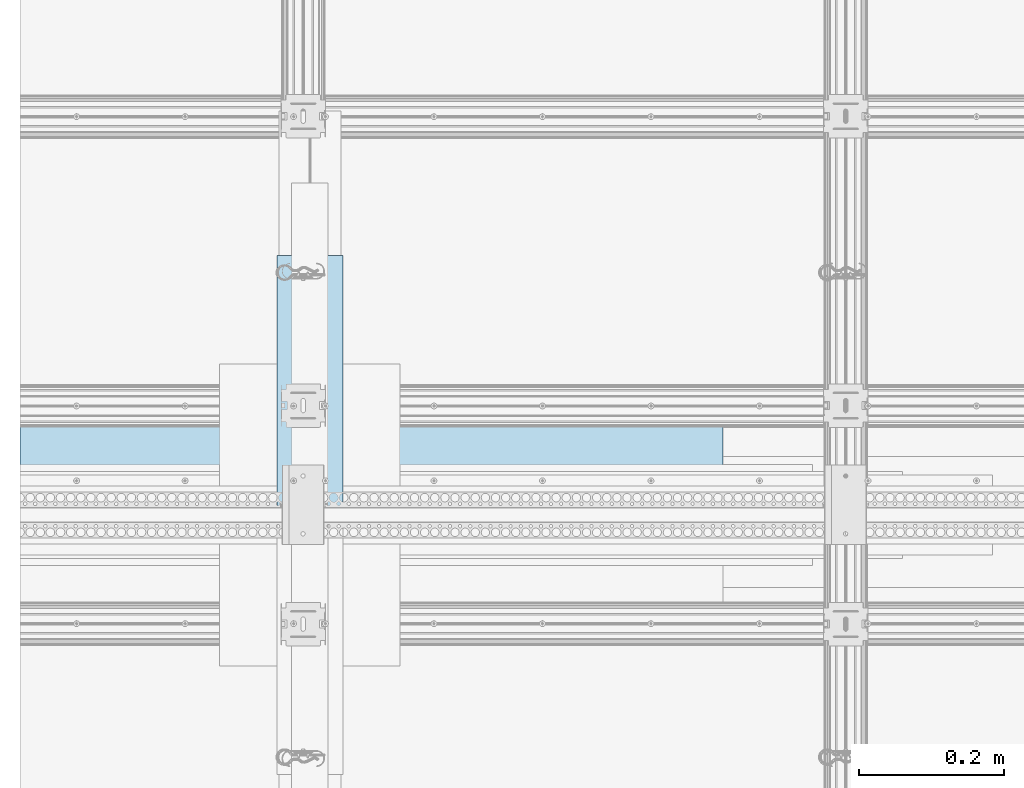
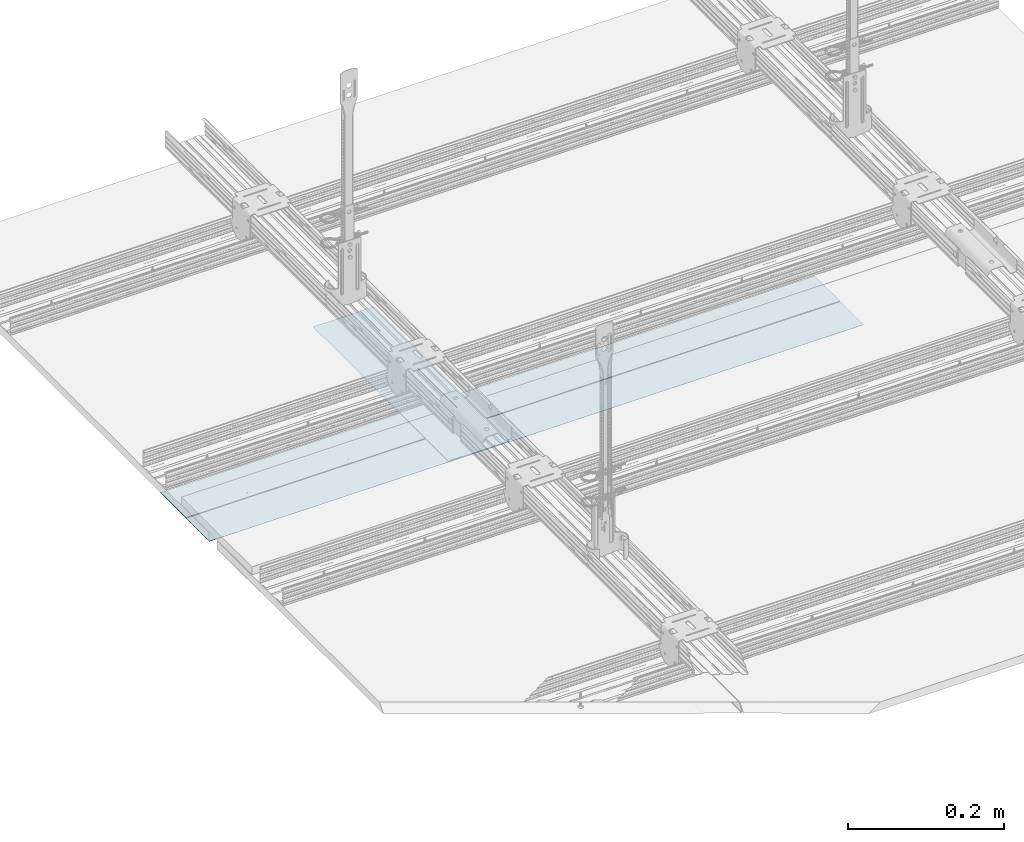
# One storey, part 5 of 56: 2 slabs.
"""IFC2X3 building model written with IfcOpenShell, lengths in millimetres."""

import ifcopenshell
import ifcopenshell.guid

model = None  # the IFC model being written
_history = None  # IfcOwnerHistory: only IFC2X3 demands one
_inside = {}  # id of a spatial element -> (the spatial element, [elements in it])
_under = {}  # id of a project, library or spatial element -> (it, [spatial elements below it])
_declared = {}  # id of a project -> (the project, [libraries it declares])
_typed = {}  # id of a type object -> (the type object, [elements of that type])
_made_of = {}  # id of a material, layer set ... -> (it, [elements and type objects made of it])


def new_model(schema):
    """Start an empty IFC model of exactly this schema.

    Asked for "IFC4X3", IfcOpenShell would pick the latest addendum, in which some entities
    have other attributes; the version numbers below select the first issue.
    IFC2X3 requires an IfcOwnerHistory on every rooted entity: one is made here for all.
    """
    global model, _history
    if schema == "IFC4X3":
        model = ifcopenshell.file(schema_version=(4, 3, 0, 0))
    else:
        model = ifcopenshell.file(schema=schema)
    _inside.clear()
    _under.clear()
    _declared.clear()
    _typed.clear()
    _made_of.clear()
    _history = None
    if model.schema == "IFC2X3":
        org = make("IfcOrganization", Name="unknown")
        user = make(
            "IfcPersonAndOrganization",
            ThePerson=make("IfcPerson", FamilyName="unknown"),
            TheOrganization=org,
        )
        app = make(
            "IfcApplication",
            ApplicationDeveloper=org,
            Version="unknown",
            ApplicationFullName="unknown",
            ApplicationIdentifier="unknown",
        )
        _history = make(
            "IfcOwnerHistory",
            OwningUser=user,
            OwningApplication=app,
            ChangeAction="ADDED",
            CreationDate=0,
        )
    return model


def make(cls, **values):
    """One entity of the class cls with the attributes given. An attribute that is None is left unset."""
    return model.create_entity(
        cls, **{name: value for name, value in values.items() if value is not None}
    )


def entity(cls, *values):
    """Any entity or typed value of the class cls, its attributes in the order of the schema. None: left unset."""
    e = model.create_entity(cls)
    for i, value in enumerate(values):
        if value is not None:
            e[i] = value
    return e


def rooted(cls, **values):
    """An entity with a GlobalId (a new one), such as an element, a storey or a relation."""
    return make(cls, GlobalId=ifcopenshell.guid.new(), OwnerHistory=_history, **values)


def si_unit(unit_type, name, prefix=None):
    """IfcSIUnit, for example si_unit("LENGTHUNIT", "METRE", prefix="MILLI")."""
    return make("IfcSIUnit", UnitType=unit_type, Prefix=prefix, Name=name)


def converted_unit(unit_type, name, factor, base, dimensions=None, offset=None):
    """IfcConversionBasedUnit, such as the inch: factor (a typed value) times the base unit."""
    return make(
        "IfcConversionBasedUnit"
        if offset is None
        else "IfcConversionBasedUnitWithOffset",
        ConversionOffset=offset,
        Dimensions=None
        if dimensions is None
        else entity("IfcDimensionalExponents", *dimensions),
        UnitType=unit_type,
        Name=name,
        ConversionFactor=make(
            "IfcMeasureWithUnit", ValueComponent=factor, UnitComponent=base
        ),
    )


def assignment(units):
    """IfcUnitAssignment: the units of a project."""
    return None if units is None else make("IfcUnitAssignment", Units=units)


def point(xyz):
    """IfcCartesianPoint."""
    return None if xyz is None else make("IfcCartesianPoint", Coordinates=xyz)


def direction(xyz):
    """IfcDirection."""
    return None if xyz is None else make("IfcDirection", DirectionRatios=xyz)


def frame(location, z_axis=None, x_axis=None):
    """IfcAxis2Placement3D, a coordinate frame: its origin and axes. An axis left out is left unset."""
    return make(
        "IfcAxis2Placement3D",
        Location=point(location),
        Axis=direction(z_axis),
        RefDirection=direction(x_axis),
    )


def origin():
    """The frame at (0, 0, 0) with its axes left unset."""
    return frame((0.0, 0.0, 0.0))


def origin_with_axes():
    """The frame at (0, 0, 0) with the z axis (0, 0, 1) and the x axis (1, 0, 0) written out."""
    return frame((0.0, 0.0, 0.0), z_axis=(0.0, 0.0, 1.0), x_axis=(1.0, 0.0, 0.0))


def place(relative_to, where):
    """IfcLocalPlacement: puts the frame where relative to a parent placement (None: the world)."""
    return make(
        "IfcLocalPlacement", PlacementRelTo=relative_to, RelativePlacement=where
    )


def context(
    kind, dimensions, precision=None, world=None, true_north=None, identifier=None
):
    """IfcGeometricRepresentationContext, for example the 3D "Model" context."""
    return make(
        "IfcGeometricRepresentationContext",
        ContextIdentifier=identifier,
        ContextType=kind,
        CoordinateSpaceDimension=dimensions,
        Precision=precision,
        WorldCoordinateSystem=world,
        TrueNorth=true_north,
    )


def project(units=None, contexts=None):
    """IfcProject with its units and contexts."""
    return rooted(
        "IfcProject",
        Name="project",
        RepresentationContexts=contexts,
        UnitsInContext=assignment(units),
    )


def spatial(cls, under=None, at=None, **own):
    """A site, building, storey or space (cls), placed at a placement, below another one or the project."""
    s = rooted(cls, ObjectPlacement=at, **own)
    if under is not None:
        _under.setdefault(under.id(), (under, []))[1].append(s)
    return s


def faces_of(points, faces, orient=None, outer=None):
    """IfcFace entities. A face is a list of loops; a loop is a list of indices into points, from 0.

    orient and outer hold one flag for each loop. By default every Orientation is true, the
    first loop of a face is its IfcFaceOuterBound and the others are IfcFaceBound.
    """
    made = []
    for i, loops in enumerate(faces):
        bounds = []
        for j, loop in enumerate(loops):
            is_outer = j == 0 if outer is None else outer[i][j]
            bounds.append(
                make(
                    "IfcFaceOuterBound" if is_outer else "IfcFaceBound",
                    Bound=make("IfcPolyLoop", Polygon=[points[k] for k in loop]),
                    Orientation=True if orient is None else orient[i][j],
                )
            )
        made.append(make("IfcFace", Bounds=bounds))
    return made


def faceted_brep(points, faces, orient=None, outer=None, voids=None):
    """IfcFacetedBrep: a solid bounded by flat faces; with voids (closed shells), ...WithVoids."""
    shared = [point(p) for p in points]
    hull = make("IfcClosedShell", CfsFaces=faces_of(shared, faces, orient, outer))
    if voids is None:
        return make("IfcFacetedBrep", Outer=hull)
    return make(
        "IfcFacetedBrepWithVoids",
        Outer=hull,
        Voids=[
            make(cls, CfsFaces=faces_of(shared, fs, o, b)) for cls, fs, o, b in voids
        ],
    )


def shape(context_of_items, identifier, shape_type, items):
    """IfcShapeRepresentation: the items that make up one representation, for example the "Body"."""
    return make(
        "IfcShapeRepresentation",
        ContextOfItems=context_of_items,
        RepresentationIdentifier=identifier,
        RepresentationType=shape_type,
        Items=items,
    )


def made_of(thing, what):
    """Note that an element or type object is made of a material, layer set ...; save() writes the relation."""
    if what is not None:
        _made_of.setdefault(what.id(), (what, []))[1].append(thing)
    return thing


def element(
    cls,
    number,
    at=None,
    inside=None,
    cuts=None,
    type_object=None,
    material=None,
    context=None,
    identifier="Body",
    shape_type=None,
    held_by="IfcProductDefinitionShape",
    body=None,
    shapes=None,
    **own,
):
    """One element of the class cls, such as IfcWall. Its Tag is "e" and its number.

    at: its placement. inside: the storey or other place that contains it. cuts: it is an
    opening in that element (IfcRelVoidsElement). A single representation is given by context,
    identifier, shape_type and body (its items); several are given by shapes. held_by: the class
    of the entity that holds the representations. save() writes the other relations.
    """
    e = rooted(cls, Tag="e%d" % number, ObjectPlacement=at, **own)
    if body is not None:
        shapes = [shape(context, identifier, shape_type, body)]
    if shapes is not None:
        e.Representation = make(held_by, Representations=shapes)
    if inside is not None:
        _inside.setdefault(inside.id(), (inside, []))[1].append(e)
    if cuts is not None:
        rooted(
            "IfcRelVoidsElement", RelatingBuildingElement=cuts, RelatedOpeningElement=e
        )
    if type_object is not None:
        _typed.setdefault(type_object.id(), (type_object, []))[1].append(e)
    return made_of(e, material)


def aggregate(whole, parts):
    """IfcRelAggregates: a whole, such as a stair, and the parts it consists of."""
    return rooted("IfcRelAggregates", RelatingObject=whole, RelatedObjects=parts)


def save(model, path):
    """Write the relations noted so far, then the file.

    IfcRelAggregates (storeys below a building ...), IfcRelContainedInSpatialStructure (elements
    in a storey), IfcRelDefinesByType, IfcRelAssociatesMaterial and IfcRelDeclares: one each for
    every whole, place, type object, material and project.
    """
    for whole, parts in _under.values():
        aggregate(whole, parts)
    for where, things in _inside.values():
        rooted(
            "IfcRelContainedInSpatialStructure",
            RelatedElements=things,
            RelatingStructure=where,
        )
    for kind, things in _typed.values():
        rooted("IfcRelDefinesByType", RelatedObjects=things, RelatingType=kind)
    for what, things in _made_of.values():
        rooted("IfcRelAssociatesMaterial", RelatedObjects=things, RelatingMaterial=what)
    for by, libraries in _declared.values():
        rooted("IfcRelDeclares", RelatingContext=by, RelatedDefinitions=libraries)
    model.write(path)


model = new_model("IFC2X3")

# Units and contexts
model_context = context("Model", 3, precision=1e-05, world=origin(), true_north=direction((0.0, 1.0, 0.0)))
ifc_project = project(units=[si_unit("LENGTHUNIT", "METRE", prefix="MILLI"), si_unit("AREAUNIT", "SQUARE_METRE"), si_unit("VOLUMEUNIT", "CUBIC_METRE"), converted_unit("PLANEANGLEUNIT", "DEGREE", entity("IfcPlaneAngleMeasure", 0.01745), si_unit("PLANEANGLEUNIT", "RADIAN"), dimensions=[0, 0, 0, 0, 0, 0, 0]), si_unit("SOLIDANGLEUNIT", "STERADIAN"), si_unit("MASSUNIT", "GRAM"), si_unit("TIMEUNIT", "SECOND"), si_unit("THERMODYNAMICTEMPERATUREUNIT", "DEGREE_CELSIUS"), si_unit("LUMINOUSINTENSITYUNIT", "LUMEN")], contexts=[model_context])

# Site, building, storey
site_placement = place(None, origin_with_axes())
site = spatial("IfcSite", under=ifc_project, at=site_placement, Name="Default Site", CompositionType="ELEMENT")
building_placement = place(site_placement, origin_with_axes())
building = spatial("IfcBuilding", under=site, at=building_placement, Name="Default Building", CompositionType="ELEMENT")
storey_placement = place(building_placement, origin_with_axes())
storey = spatial("IfcBuildingStorey", under=building, at=storey_placement, Name="Default Building Storey", CompositionType="ELEMENT", Elevation=0.0)

# Slabs
slab_1_placement = place(storey_placement, frame((2542.250504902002, 840.7854072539, 4102.56583431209), z_axis=(1.0, -9.998889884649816e-14, -2.657263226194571e-12), x_axis=(-1.537867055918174e-13, -1.0, 2.784771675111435e-12)))
element("IfcSlab", 1, at=slab_1_placement, inside=storey, Name="Dedykowana masa szpachlowa Rigips - wykończeniowa", context=model_context, shape_type="Brep", body=[
    faceted_brep([(-762.4602403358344, 3122.348552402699, 554.4180031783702), (-762.460240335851, 3122.348552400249, -417.2253714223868), (-812.4612643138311, 3122.053945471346, -417.2253714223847), (-812.4612643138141, 3122.053945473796, 554.4180031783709), (-797.4592163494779, 3122.017124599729, -417.2253714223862), (-797.4592163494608, 3122.017124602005, 554.4180031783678), (-797.4592163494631, 3121.648870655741, 554.4180031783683), (-797.4592163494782, 3121.648870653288, -417.2253714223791), (-737.4592163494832, 3122.348552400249, -417.2253714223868), (-737.4592163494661, 3122.348552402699, 554.4180031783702), (-862.4592163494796, 3121.188553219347, -417.2253714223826), (-862.4592163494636, 3121.188553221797, 554.4180031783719), (-737.4592163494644, 3122.017124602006, 554.4180031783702), (-797.4592163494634, 3121.188553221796, 554.4180031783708), (-737.4592163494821, 3122.017124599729, -417.2253714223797), (-797.45921634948, 3121.188553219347, -417.2253714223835)], [[[0, 1, 2, 3]], [[4, 5, 6, 7]], [[8, 1, 0, 9]], [[10, 11, 3, 2]], [[12, 9, 0, 3, 11, 13, 6, 5]], [[14, 8, 9, 12]], [[13, 11, 10, 15]], [[13, 15, 7, 6]], [[14, 12, 5, 4]], [[4, 7, 15, 10, 2, 1, 8, 14]]]),
])
slab_2_placement = place(storey_placement, frame((2480.439347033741, 1926.89462666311, 981.2852175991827), z_axis=(0.0, 0.0, 1.0), x_axis=(1.0, 0.0, 0.0)))
element("IfcSlab", 2, at=slab_2_placement, inside=storey, Name="Dedykowana masa szpachlowa Rigips - konstrukcyjna", context=model_context, shape_type="Brep", body=[
    faceted_brep([(90.99999999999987, 0.0, 0.0), (90.99999999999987, -348.350003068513, 0.0), (88.19999999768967, -348.350003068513, 0.6999999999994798), (88.19999999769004, 0.0, 0.6999999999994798), (20.00000000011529, -3.609557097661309e-13, 0.2999999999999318), (20.00000000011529, -348.350003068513, 0.2999999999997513), (20.00000000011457, -348.350003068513, 0.6999999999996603), (20.00000000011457, -5.414335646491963e-13, 0.6999999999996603), (70.00000000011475, -1.804778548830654e-13, 0.3000000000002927), (70.00000000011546, -348.350003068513, 0.2999999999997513), (70.00000000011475, -1.263344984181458e-12, 0.6999999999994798), (70.00000000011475, -348.350003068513, 0.6999999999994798), (0.0, 0.0, 0.0), (0.0, -348.350003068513, 0.0), (2.799999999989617, -348.350003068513, 0.6999999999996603), (2.800000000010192, -5.414335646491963e-13, 0.6999999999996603)], [[[0, 1, 2, 3]], [[4, 5, 6, 7]], [[8, 9, 5, 4]], [[8, 10, 11, 9]], [[2, 11, 10, 3]], [[0, 12, 13, 1]], [[14, 6, 5, 9, 11, 2, 1, 13]], [[12, 15, 14, 13]], [[15, 7, 6, 14]], [[3, 10, 8, 4, 7, 15, 12, 0]]]),
])

save(model, "model.ifc")
